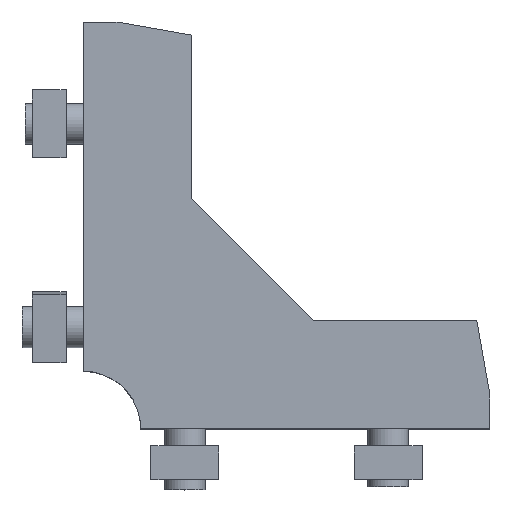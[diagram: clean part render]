
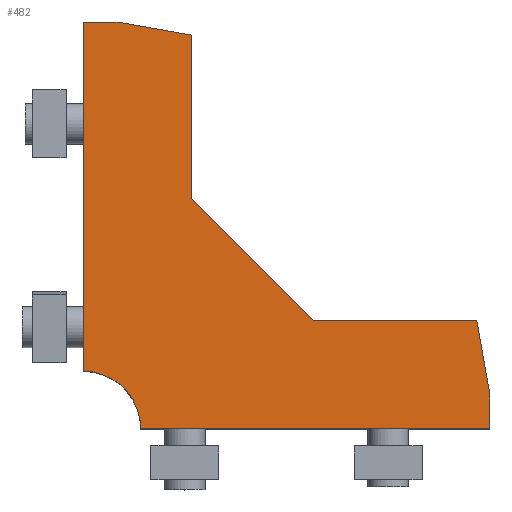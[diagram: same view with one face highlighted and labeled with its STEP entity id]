
A CAD part, top view. The second image highlights one B-rep face of the part: STEP entity #482.
In plain terms, the highlighted planar face has unit normal (0, 0, 1).
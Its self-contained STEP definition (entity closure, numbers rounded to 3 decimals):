
#367=CARTESIAN_POINT('',(0.,8.5,12.5));
#368=VERTEX_POINT('',#367);
#369=CARTESIAN_POINT('',(8.5,0.,12.5));
#370=VERTEX_POINT('',#369);
#371=CARTESIAN_POINT('',(0.0,0.0,12.5));
#372=DIRECTION('',(0.0,0.0,-1.0));
#373=DIRECTION('',(-1.0,0.0,0.0));
#374=AXIS2_PLACEMENT_3D('',#371,#372,#373);
#375=CIRCLE('',#374,8.5);
#376=EDGE_CURVE('',#368,#370,#375,.T.);
#404=CARTESIAN_POINT('',(22.212,22.212,12.5));
#405=DIRECTION('',(0.0,0.0,1.0));
#406=DIRECTION('',(1.0,0.0,0.0));
#407=AXIS2_PLACEMENT_3D('',#404,#405,#406);
#408=PLANE('',#407);
#409=ORIENTED_EDGE('',*,*,#376,.T.);
#410=CARTESIAN_POINT('',(60.,0.,12.5));
#411=VERTEX_POINT('',#410);
#412=CARTESIAN_POINT('',(60.,0.,12.5));
#413=DIRECTION('',(-1.0,0.0,0.0));
#414=VECTOR('',#413,51.5);
#415=LINE('',#412,#414);
#416=EDGE_CURVE('',#411,#370,#415,.T.);
#417=ORIENTED_EDGE('',*,*,#416,.F.);
#418=CARTESIAN_POINT('',(60.,5.,12.5));
#419=VERTEX_POINT('',#418);
#420=CARTESIAN_POINT('',(60.,5.,12.5));
#421=DIRECTION('',(0.,-1.0,0.0));
#422=VECTOR('',#421,5.);
#423=LINE('',#420,#422);
#424=EDGE_CURVE('',#419,#411,#423,.T.);
#425=ORIENTED_EDGE('',*,*,#424,.F.);
#426=CARTESIAN_POINT('',(58.06,16.,12.5));
#427=VERTEX_POINT('',#426);
#428=CARTESIAN_POINT('',(58.06,16.,12.5));
#429=DIRECTION('',(0.174,-0.985,0.0));
#430=VECTOR('',#429,11.17);
#431=LINE('',#428,#430);
#432=EDGE_CURVE('',#427,#419,#431,.T.);
#433=ORIENTED_EDGE('',*,*,#432,.F.);
#434=CARTESIAN_POINT('',(34.,16.,12.5));
#435=VERTEX_POINT('',#434);
#436=CARTESIAN_POINT('',(34.,16.,12.5));
#437=DIRECTION('',(1.0,0.0,0.0));
#438=VECTOR('',#437,24.06);
#439=LINE('',#436,#438);
#440=EDGE_CURVE('',#435,#427,#439,.T.);
#441=ORIENTED_EDGE('',*,*,#440,.F.);
#442=CARTESIAN_POINT('',(16.,34.,12.5));
#443=VERTEX_POINT('',#442);
#444=CARTESIAN_POINT('',(16.,34.,12.5));
#445=DIRECTION('',(0.707,-0.707,0.0));
#446=VECTOR('',#445,25.456);
#447=LINE('',#444,#446);
#448=EDGE_CURVE('',#443,#435,#447,.T.);
#449=ORIENTED_EDGE('',*,*,#448,.F.);
#450=CARTESIAN_POINT('',(16.,58.06,12.5));
#451=VERTEX_POINT('',#450);
#452=CARTESIAN_POINT('',(16.,58.06,12.5));
#453=DIRECTION('',(0.0,-1.0,0.0));
#454=VECTOR('',#453,24.06);
#455=LINE('',#452,#454);
#456=EDGE_CURVE('',#451,#443,#455,.T.);
#457=ORIENTED_EDGE('',*,*,#456,.F.);
#458=CARTESIAN_POINT('',(5.,60.,12.5));
#459=VERTEX_POINT('',#458);
#460=CARTESIAN_POINT('',(5.,60.,12.5));
#461=DIRECTION('',(0.985,-0.174,0.0));
#462=VECTOR('',#461,11.17);
#463=LINE('',#460,#462);
#464=EDGE_CURVE('',#459,#451,#463,.T.);
#465=ORIENTED_EDGE('',*,*,#464,.F.);
#466=CARTESIAN_POINT('',(0.,60.,12.5));
#467=VERTEX_POINT('',#466);
#468=CARTESIAN_POINT('',(0.,60.,12.5));
#469=DIRECTION('',(1.0,0.0,0.0));
#470=VECTOR('',#469,5.);
#471=LINE('',#468,#470);
#472=EDGE_CURVE('',#467,#459,#471,.T.);
#473=ORIENTED_EDGE('',*,*,#472,.F.);
#474=CARTESIAN_POINT('',(0.,8.5,12.5));
#475=DIRECTION('',(0.0,1.0,0.0));
#476=VECTOR('',#475,51.5);
#477=LINE('',#474,#476);
#478=EDGE_CURVE('',#368,#467,#477,.T.);
#479=ORIENTED_EDGE('',*,*,#478,.F.);
#480=EDGE_LOOP('',(#409,#417,#425,#433,#441,#449,#457,#465,#473,#479));
#481=FACE_OUTER_BOUND('',#480,.T.);
#482=ADVANCED_FACE('',(#481),#408,.T.);
